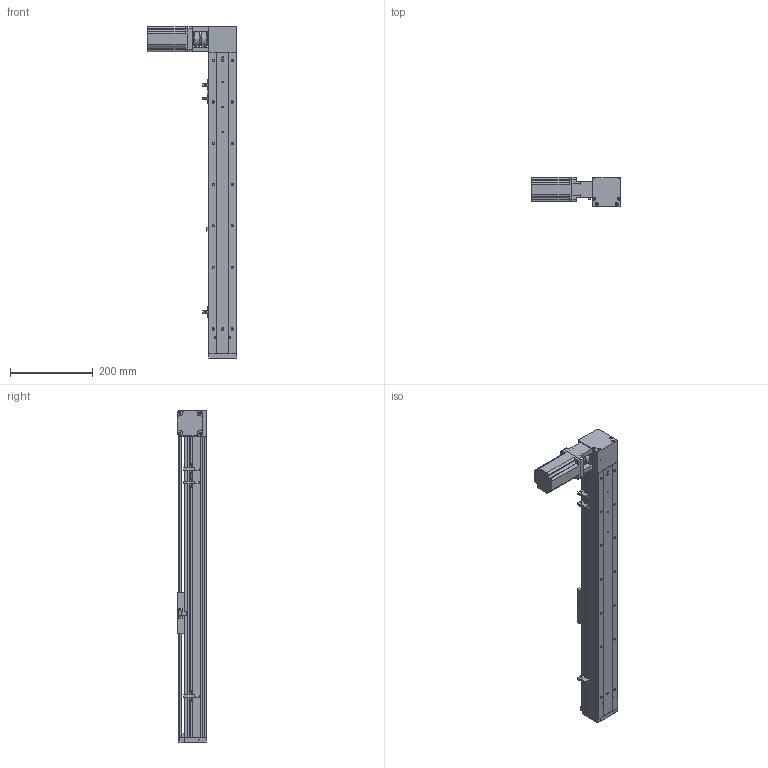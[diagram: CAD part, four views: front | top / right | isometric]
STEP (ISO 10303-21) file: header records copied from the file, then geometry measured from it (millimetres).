
FILE_DESCRIPTION (( 'STEP AP203' ), '1' );
FILE_NAME ('ML68-S550-BL.STEP', '2016-06-01T03:09:09', ( '微软用户' ), ( '微软中国' ), 'SwSTEP 2.0', 'SolidWorks 2014', '' );
FILE_SCHEMA (( 'CONFIG_CONTROL_DESIGN' ));
Length unit declared in the file: millimetre
Products named in the file (12): ML68-BL傷啣; MS68-TS0204鎮湛嘐隅釱_蕼偞; 60換覜結え; ML68-奻裔^ML68-S550-BL; ML68-菁釱^ML68-S550-BL; ML68雄赽釱; ML68傷啣; ML68滅鳥啣盓傅輸; 換覜ん; ML68-S550-BL; 三协电机MH201N2_預設; 联轴器（CS34X32-8X14）_預設
Assembly tree (13 placements, depth 2):
  ML68-S550-BL
    ML68-BL傷啣
    60換覜結え
    ML68-菁釱^ML68-S550-BL
    ML68傷啣
    換覜ん  x3
    三协电机MH201N2_預設
    联轴器（CS34X32-8X14）_預設
    MS68-TS0204鎮湛嘐隅釱_蕼偞
    ML68-奻裔^ML68-S550-BL
    ML68雄赽釱
    ML68滅鳥啣盓傅輸
Bounding box: 216.5 x 70.5 x 804 mm (x, y, z)
Volume: 1595707.7 mm3; surface area: 556042.7 mm2
Topology: 14 solids, 14 shells, 895 faces, 2425 edges, 1535 vertices
Faces by surface type: cylinder 415, plane 366, cone 100, bspline 14
Entity records: 28585 total; most frequent: CARTESIAN_POINT 5823, DIRECTION 4617, ORIENTED_EDGE 4366, EDGE_CURVE 2183, AXIS2_PLACEMENT_3D 1691, VERTEX_POINT 1423, VECTOR 1235, LINE 1235
